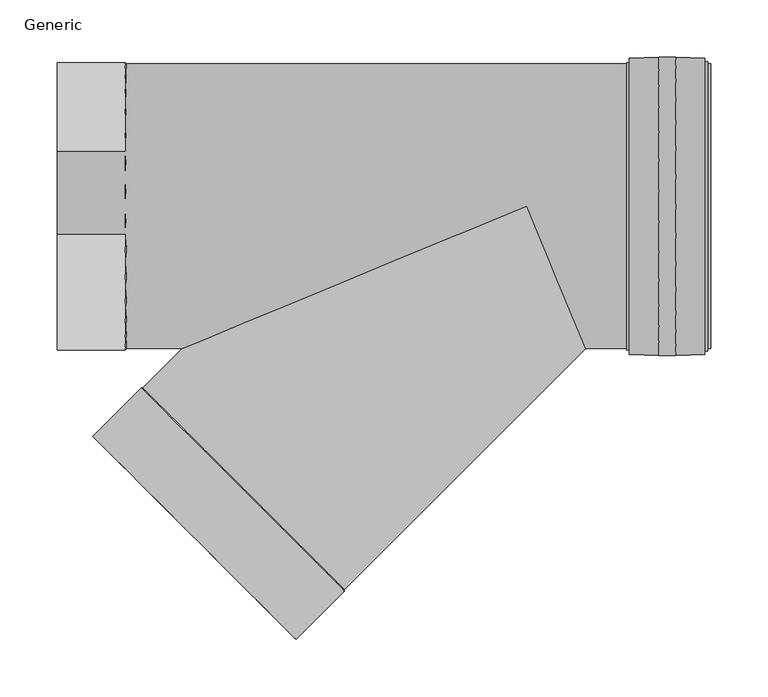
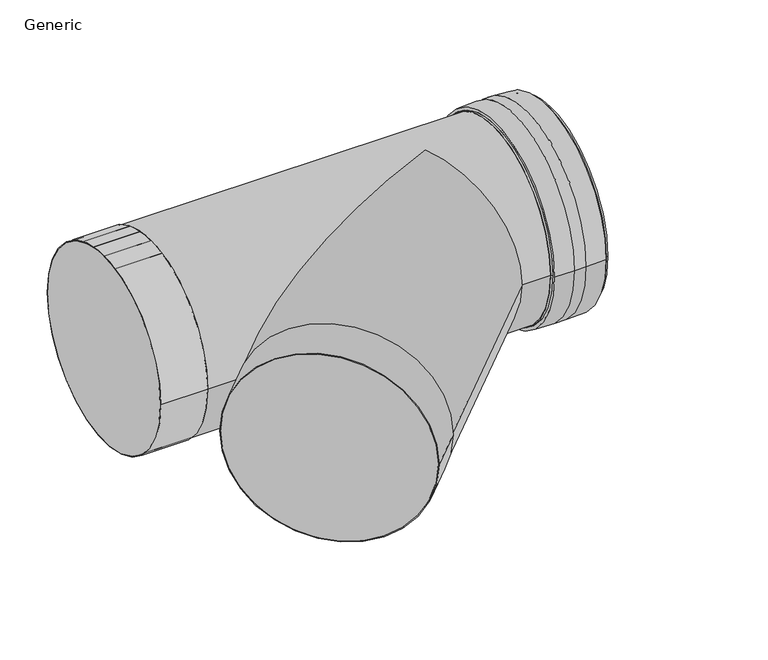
"""IFC4 building model written with IfcOpenShell, lengths in millimetres: pipe fitting geometry, CADS_Jeremias_Tee1 : Generic."""

from ifc_helpers import new_model, si_unit, point, frame, origin, place, context, project, spatial, polyline, circle_curve, ellipse_curve, trimmed, source, transform, mapped, element, save
from ifc_brep_helpers import plane_surface, cylinder_surface, revolved_surface, advanced_brep


def generic_217080a0(model_context):
    return source(origin(), model_context, "Body", "AdvancedBrep", [
        advanced_brep(
        [(158.740931, -125.0, 0.0), (158.740931, 125.0, 0.0), (87.7766953, 125.0, 0.0), (87.7766953, -125.0, 0.0), (156.240931, -127.0, 0.0), (156.240931, 127.0, 0.0), (158.740931, 127.0, 0.0), (158.740931, -127.0, 0.0), (87.7766953, -126.0062895, 0.0), (87.7766953, 126.0062895, 0.0), (90.2766953, 126.0062895, 0.0), (90.2766953, -126.0062895, 0.0), (156.240931, 130.0, 0.0), (156.240931, -130.0, 0.0), (90.2766953, -130.0, 0.0), (90.2766953, 130.0, 0.0), (130.7588132, -130.9818268, 0.0), (130.7588132, 130.9818268, 0.0), (115.7588132, -130.9818268, 0.0), (115.7588132, 130.9818268, 0.0)],
        [
            (0, 1, circle_curve(frame((158.740931, 0.0, 0.0), z_axis=(1.0, 0.0, 0.0), x_axis=(0.0, 1.0, 0.0)), 125.0)),
            (1, 2),
            (2, 3, circle_curve(frame((87.7766953, 0.0, 0.0), z_axis=(-1.0, 0.0, 0.0), x_axis=(0.0, 1.0, 0.0)), 125.0)),
            (3, 0),
            (4, 5, circle_curve(frame((156.240931, 0.0, 0.0), z_axis=(1.0, 0.0, 0.0), x_axis=(0.0, 1.0, 0.0)), 127.0)),
            (5, 6),
            (6, 7, circle_curve(frame((158.740931, 0.0, 0.0), z_axis=(-1.0, 0.0, 0.0), x_axis=(0.0, 1.0, 0.0)), 127.0)),
            (7, 4),
            (8, 9, circle_curve(frame((87.7766953, 0.0, 0.0), z_axis=(1.0, 0.0, 0.0), x_axis=(0.0, 1.0, 0.0)), 126.0062895)),
            (9, 10),
            (10, 11, circle_curve(frame((90.2766953, 0.0, 0.0), z_axis=(-1.0, 0.0, 0.0), x_axis=(0.0, 1.0, 0.0)), 126.0062895)),
            (11, 8),
            (8, 9, circle_curve(frame((87.7766953, 0.0, 0.0), z_axis=(-1.0, 0.0, 0.0), x_axis=(0.0, -1.0, 0.0)), 126.0062895)),
            (2, 3, circle_curve(frame((87.7766953, 0.0, 0.0), z_axis=(1.0, 0.0, 0.0), x_axis=(0.0, -1.0, 0.0)), 125.0)),
            (1, 0, circle_curve(frame((158.740931, 0.0, 0.0), z_axis=(1.0, 0.0, 0.0), x_axis=(0.0, -1.0, 0.0)), 125.0)),
            (6, 7, circle_curve(frame((158.740931, 0.0, 0.0), z_axis=(1.0, 0.0, 0.0), x_axis=(0.0, -1.0, 0.0)), 127.0)),
            (5, 4, circle_curve(frame((156.240931, 0.0, 0.0), z_axis=(1.0, 0.0, 0.0), x_axis=(0.0, -1.0, 0.0)), 127.0)),
            (12, 13, circle_curve(frame((156.240931, 0.0, 0.0), z_axis=(1.0, 0.0, 0.0), x_axis=(0.0, -1.0, 0.0)), 130.0)),
            (13, 12, circle_curve(frame((156.240931, 0.0, 0.0), z_axis=(1.0, 0.0, 0.0), x_axis=(0.0, 1.0, 0.0)), 130.0)),
            (14, 15, circle_curve(frame((90.2766953, 0.0, 0.0), z_axis=(-1.0, 0.0, 0.0), x_axis=(0.0, -1.0, 0.0)), 130.0)),
            (15, 14, circle_curve(frame((90.2766953, 0.0, 0.0), z_axis=(-1.0, 0.0, 0.0), x_axis=(0.0, 1.0, 0.0)), 130.0)),
            (10, 11, circle_curve(frame((90.2766953, 0.0, 0.0), z_axis=(1.0, 0.0, 0.0), x_axis=(0.0, -1.0, 0.0)), 126.0062895)),
            (16, 17, circle_curve(frame((130.7588132, 0.0, 0.0), z_axis=(1.0, 0.0, 0.0), x_axis=(0.0, 1.0, 0.0)), 130.9818268)),
            (17, 12, circle_curve(frame((130.7588132, -200.1877444, 0.0), z_axis=(0.0, 0.0, -1.0), x_axis=(0.0, -1.0, 0.0)), 331.1695712)),
            (13, 16, circle_curve(frame((130.7588132, 200.1877444, 0.0), z_axis=(0.0, 0.0, -1.0), x_axis=(0.0, 1.0, 0.0)), 331.1695712)),
            (18, 19, circle_curve(frame((115.7588132, 0.0, 0.0), z_axis=(1.0, 0.0, 0.0), x_axis=(0.0, 1.0, 0.0)), 130.9818268)),
            (19, 17),
            (16, 18),
            (15, 19, circle_curve(frame((115.7588132, -200.1877444, 0.0), z_axis=(0.0, 0.0, -1.0), x_axis=(0.0, -1.0, 0.0)), 331.1695712)),
            (18, 14, circle_curve(frame((115.7588132, 200.1877444, 0.0), z_axis=(0.0, 0.0, -1.0), x_axis=(0.0, 1.0, 0.0)), 331.1695712)),
            (17, 16, circle_curve(frame((130.7588132, 0.0, 0.0), z_axis=(1.0, 0.0, 0.0), x_axis=(0.0, -1.0, 0.0)), 130.9818268)),
            (19, 18, circle_curve(frame((115.7588132, 0.0, 0.0), z_axis=(1.0, 0.0, 0.0), x_axis=(0.0, -1.0, 0.0)), 130.9818268)),
        ],
        [
            revolved_surface(polyline([(87.7766953, 125.0, 0.0), (158.740931, 125.0, 0.0)]), (101.7766953, 0.0, 0.0), (-1.0, 0.0, 0.0)),
            cylinder_surface(frame((101.7766953, 0.0, 0.0), z_axis=(-1.0, 0.0, 0.0), x_axis=(0.0, 1.0, 0.0)), 127.0),
            cylinder_surface(frame((101.7766953, 0.0, 0.0), z_axis=(-1.0, 0.0, 0.0), x_axis=(0.0, 1.0, 0.0)), 126.0062895),
            plane_surface(frame((87.7766953, 0.0, 0.0), z_axis=(-1.0, 0.0, 0.0), x_axis=(0.0, -1.0, 0.0))),
            revolved_surface(polyline([(87.7766953, -125.0, 0.0), (158.740931, -125.0, 0.0)]), (101.7766953, 0.0, 0.0), (-1.0, 0.0, 0.0)),
            plane_surface(frame((158.740931, 0.0, 0.0), z_axis=(1.0, 0.0, 0.0), x_axis=(0.0, -1.0, 0.0))),
            cylinder_surface(frame((101.7766953, 0.0, 0.0), z_axis=(-1.0, 0.0, 0.0), x_axis=(0.0, -1.0, 0.0)), 127.0),
            plane_surface(frame((156.240931, 0.0, 0.0), z_axis=(1.0, 0.0, 0.0), x_axis=(0.0, -1.0, 0.0))),
            plane_surface(frame((90.2766953, 0.0, 0.0), z_axis=(-1.0, 0.0, 0.0), x_axis=(0.0, -1.0, 0.0))),
            cylinder_surface(frame((101.7766953, 0.0, 0.0), z_axis=(-1.0, 0.0, 0.0), x_axis=(0.0, -1.0, 0.0)), 126.0062895),
            revolved_surface(trimmed(ellipse_curve(frame((130.7588132, -200.1877444, 0.0), z_axis=(0.0, 0.0, 1.0), x_axis=(0.0, -1.0, 0.0)), 331.1695712, 331.1695712), [point((156.240931, 130.0, 0.0))], [point((130.7588132, 130.9818268, 0.0))], True, "CARTESIAN"), (101.7766953, 0.0, 0.0), (-1.0, 0.0, 0.0)),
            cylinder_surface(frame((101.7766953, 0.0, 0.0), z_axis=(-1.0, 0.0, 0.0), x_axis=(0.0, 1.0, 0.0)), 130.9818268),
            revolved_surface(trimmed(ellipse_curve(frame((115.7588132, -200.1877444, 0.0), z_axis=(0.0, 0.0, 1.0), x_axis=(0.0, -1.0, 0.0)), 331.1695712, 331.1695712), [point((115.7588132, 130.9818268, 0.0))], [point((90.2766953, 130.0, 0.0))], True, "CARTESIAN"), (101.7766953, 0.0, 0.0), (-1.0, 0.0, 0.0)),
            revolved_surface(trimmed(ellipse_curve(frame((130.7588132, 200.1877444, 0.0), z_axis=(0.0, 0.0, -1.0), x_axis=(0.0, 1.0, 0.0)), 331.1695712, 331.1695712), [point((156.240931, -130.0, 0.0))], [point((130.7588132, -130.9818268, 0.0))], True, "CARTESIAN"), (101.7766953, 0.0, 0.0), (-1.0, 0.0, 0.0)),
            cylinder_surface(frame((101.7766953, 0.0, 0.0), z_axis=(-1.0, 0.0, 0.0), x_axis=(0.0, -1.0, 0.0)), 130.9818268),
            revolved_surface(trimmed(ellipse_curve(frame((115.7588132, 200.1877444, 0.0), z_axis=(0.0, 0.0, -1.0), x_axis=(0.0, 1.0, 0.0)), 331.1695712, 331.1695712), [point((115.7588132, -130.9818268, 0.0))], [point((90.2766953, -130.0, 0.0))], True, "CARTESIAN"), (101.7766953, 0.0, 0.0), (-1.0, 0.0, 0.0)),
        ],
        [
            (0, [[1, 2, 3, 4]]),
            (1, [[5, 6, 7, 8]]),
            (2, [[9, 10, 11, 12]]),
            (3, [[13, -9], [14, -3]]),
            (4, [[15, -4, -14, -2]]),
            (5, [[16, -7], [-15, -1]]),
            (6, [[17, -8, -16, -6]]),
            (7, [[18, 19], [-17, -5]]),
            (8, [[20, 21], [22, -11]]),
            (9, [[-13, -12, -22, -10]]),
            (10, [[23, 24, -19, 25]]),
            (11, [[26, 27, -23, 28]]),
            (12, [[-21, 29, -26, 30]]),
            (13, [[31, -25, -18, -24]]),
            (14, [[32, -28, -31, -27]]),
            (15, [[-20, -30, -32, -29]]),
        ],
    ),
        advanced_brep(
        [(-337.8391411, -159.6482323, 0.0), (-159.6482323, -337.8391411, 0.0), (-202.0746391, -380.265548, 0.0), (-380.265548, -202.0746391, 0.0), (-336.4249276, -159.6482323, 0.0), (-159.6482323, -336.4249276, 0.0), (-379.5584412, -202.7817459, 0.0), (-202.7817459, -379.5584412, 0.0)],
        [
            (0, 1, circle_curve(frame((-248.7436867, -248.7436867, 0.0), z_axis=(-0.7071067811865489, -0.7071067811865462, 0.0), x_axis=(0.7071067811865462, -0.7071067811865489, 0.0)), 126.0)),
            (1, 2),
            (2, 3, circle_curve(frame((-291.1700936, -291.1700936, 0.0), z_axis=(0.7071067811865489, 0.7071067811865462, 0.0), x_axis=(0.7071067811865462, -0.7071067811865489, 0.0)), 126.0)),
            (3, 0),
            (4, 5, circle_curve(frame((-248.0365799, -248.0365799, 0.0), z_axis=(-0.7071067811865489, -0.7071067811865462, 0.0), x_axis=(0.7071067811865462, -0.7071067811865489, 0.0)), 125.0)),
            (5, 1),
            (0, 4),
            (6, 7, circle_curve(frame((-291.1700936, -291.1700936, 0.0), z_axis=(-0.7071067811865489, -0.7071067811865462, 0.0), x_axis=(0.7071067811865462, -0.7071067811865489, 0.0)), 125.0)),
            (7, 5),
            (4, 6),
            (2, 3, circle_curve(frame((-291.1700936, -291.1700936, 0.0), z_axis=(-0.7071067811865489, -0.7071067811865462, 0.0), x_axis=(-0.7071067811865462, 0.7071067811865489, 0.0)), 126.0)),
            (6, 7, circle_curve(frame((-291.1700936, -291.1700936, 0.0), z_axis=(0.7071067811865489, 0.7071067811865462, 0.0), x_axis=(-0.7071067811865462, 0.7071067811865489, 0.0)), 125.0)),
            (1, 0, circle_curve(frame((-248.7436867, -248.7436867, 0.0), z_axis=(-0.7071067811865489, -0.7071067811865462, 0.0), x_axis=(-0.7071067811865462, 0.7071067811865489, 0.0)), 126.0)),
            (5, 4, circle_curve(frame((-248.0365799, -248.0365799, 0.0), z_axis=(-0.7071067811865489, -0.7071067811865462, 0.0), x_axis=(-0.7071067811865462, 0.7071067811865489, 0.0)), 125.0)),
        ],
        [
            cylinder_surface(frame((-291.1700936, -291.1700936, 0.0), z_axis=(0.7071067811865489, 0.7071067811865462, 0.0), x_axis=(0.7071067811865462, -0.7071067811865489, 0.0)), 126.0),
            revolved_surface(polyline([(-159.6482323, -337.8391411, 0.0), (-159.6482323, -336.4249276, 0.0)]), (-291.1700936, -291.1700936, 0.0), (0.7071067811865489, 0.7071067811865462, 0.0)),
            revolved_surface(polyline([(-159.64823225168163, -336.42492754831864, 0.0), (-202.7817459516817, -379.55844124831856, 0.0)]), (-291.1700936, -291.1700936, 0.0), (0.7071067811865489, 0.7071067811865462, 0.0)),
            plane_surface(frame((-291.1700936, -291.1700936, 0.0), z_axis=(-0.7071067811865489, -0.7071067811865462, 0.0), x_axis=(-0.7071067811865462, 0.7071067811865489, 0.0))),
            cylinder_surface(frame((-291.1700936, -291.1700936, 0.0), z_axis=(0.7071067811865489, 0.7071067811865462, 0.0), x_axis=(-0.7071067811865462, 0.7071067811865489, 0.0)), 126.0),
            revolved_surface(polyline([(-337.8391411, -159.6482323, 0.0), (-336.4249276, -159.6482323, 0.0)]), (-291.1700936, -291.1700936, 0.0), (0.7071067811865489, 0.7071067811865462, 0.0)),
            revolved_surface(polyline([(-336.4249275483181, -159.64823225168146, 0.0), (-379.5584412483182, -202.78174595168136, 0.0)]), (-291.1700936, -291.1700936, 0.0), (0.7071067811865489, 0.7071067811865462, 0.0)),
        ],
        [
            (0, [[1, 2, 3, 4]]),
            (1, [[5, 6, -1, 7]]),
            (2, [[8, 9, -5, 10]]),
            (3, [[11, -3], [12, -8]]),
            (4, [[13, -4, -11, -2]]),
            (5, [[14, -7, -13, -6]]),
            (6, [[-12, -10, -14, -9]]),
        ],
    ),
        advanced_brep(
        [(-379.5584412, -202.7817459, 0.0), (-202.7817459, -379.5584412, 0.0), (51.7766953, -125.0, 0.0), (0.0, 0.0, 125.0), (-301.7766953, -125.0, 0.0), (0.0, 0.0, -125.0), (-411.7766953, -125.0, 0.0), (-411.7766953, 125.0, 0.0), (161.7766953, -125.0, 0.0), (161.7766953, 125.0, 0.0)],
        [
            (0, 1, circle_curve(frame((-291.1700936, -291.1700936, 0.0), z_axis=(-0.7071067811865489, -0.7071067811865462, 0.0), x_axis=(0.7071067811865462, -0.7071067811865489, 0.0)), 125.0)),
            (1, 0, circle_curve(frame((-291.1700936, -291.1700936, 0.0), z_axis=(-0.7071067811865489, -0.7071067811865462, 0.0), x_axis=(0.7071067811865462, -0.7071067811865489, 0.0)), 125.0)),
            (1, 2),
            (2, 3, ellipse_curve(frame((0.0, 0.0, 0.0), z_axis=(-0.9238795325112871, -0.38268343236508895, 0.0), x_axis=(-0.3826834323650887, 0.9238795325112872, 0.0)), 135.299025, 125.0)),
            (3, 4, ellipse_curve(frame((0.0, 0.0, 0.0), z_axis=(0.38268343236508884, -0.9238795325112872, 0.0), x_axis=(0.9238795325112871, 0.38268343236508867, 0.0)), 326.6407412, 125.0)),
            (4, 0),
            (4, 5, ellipse_curve(frame((0.0, 0.0, 0.0), z_axis=(0.38268343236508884, -0.9238795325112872, 0.0), x_axis=(0.9238795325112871, 0.38268343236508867, 0.0)), 326.6407412, 125.0)),
            (5, 2, ellipse_curve(frame((0.0, 0.0, 0.0), z_axis=(-0.9238795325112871, -0.38268343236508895, 0.0), x_axis=(-0.3826834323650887, 0.9238795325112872, 0.0)), 135.299025, 125.0)),
            (6, 7, circle_curve(frame((-411.7766953, 0.0, 0.0), z_axis=(-1.0, 0.0, 0.0), x_axis=(0.0, 1.0, 0.0)), 125.0)),
            (7, 6, circle_curve(frame((-411.7766953, 0.0, 0.0), z_axis=(-1.0, 0.0, 0.0), x_axis=(0.0, 1.0, 0.0)), 125.0)),
            (8, 9, circle_curve(frame((161.7766953, 0.0, 0.0), z_axis=(1.0, 0.0, 0.0), x_axis=(0.0, 1.0, 0.0)), 125.0)),
            (9, 8, circle_curve(frame((161.7766953, 0.0, 0.0), z_axis=(1.0, 0.0, 0.0), x_axis=(0.0, 1.0, 0.0)), 125.0)),
            (6, 4),
            (2, 8),
            (9, 7),
        ],
        [
            plane_surface(frame((-291.1700936, -291.1700936, 0.0), z_axis=(-0.7071067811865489, -0.7071067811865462, 0.0), x_axis=(0.0, 0.0, 1.0))),
            cylinder_surface(frame((0.0, 0.0, 0.0), z_axis=(0.7071067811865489, 0.7071067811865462, 0.0), x_axis=(0.7071067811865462, -0.7071067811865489, 0.0)), 125.0),
            plane_surface(frame((-411.7766953, 0.0, 0.0), z_axis=(-1.0, 0.0, 0.0), x_axis=(0.0, 0.0, 1.0))),
            plane_surface(frame((161.7766953, 0.0, 0.0), z_axis=(1.0, 0.0, 0.0), x_axis=(0.0, 0.0, 1.0))),
            cylinder_surface(frame((-411.7766953, 0.0, 0.0), z_axis=(-1.0, 0.0, 0.0), x_axis=(0.0, 1.0, 0.0)), 125.0),
        ],
        [
            (0, [[1, 2]]),
            (1, [[-2, 3, 4, 5, 6]]),
            (1, [[-1, -6, 7, 8, -3]]),
            (2, [[9, 10]]),
            (3, [[11, 12]]),
            (4, [[-9, 13, -5, -4, 14, -12, 15]]),
            (4, [[-10, -15, -11, -14, -8, -7, -13]]),
        ],
    ),
        advanced_brep(
        [(-351.7766953, 126.0, 0.0), (-351.7766953, -126.0, 0.0), (-411.7766953, -126.0, 0.0), (-411.7766953, 126.0, 0.0), (-350.7766953, 125.0, 0.0), (-350.7766953, -125.0, 0.0), (-411.7766953, 125.0, 0.0), (-411.7766953, -125.0, 0.0)],
        [
            (0, 1, circle_curve(frame((-351.7766953, 0.0, 0.0), z_axis=(-1.0, 0.0, 0.0), x_axis=(0.0, -1.0, 0.0)), 126.0)),
            (1, 2),
            (2, 3, circle_curve(frame((-411.7766953, 0.0, 0.0), z_axis=(1.0, 0.0, 0.0), x_axis=(0.0, -1.0, 0.0)), 126.0)),
            (3, 0),
            (4, 5, circle_curve(frame((-350.7766953, 0.0, 0.0), z_axis=(-1.0, 0.0, 0.0), x_axis=(0.0, -1.0, 0.0)), 125.0)),
            (5, 1),
            (0, 4),
            (6, 7, circle_curve(frame((-411.7766953, 0.0, 0.0), z_axis=(-1.0, 0.0, 0.0), x_axis=(0.0, -1.0, 0.0)), 125.0)),
            (7, 5),
            (4, 6),
            (2, 3, circle_curve(frame((-411.7766953, 0.0, 0.0), z_axis=(-1.0, 0.0, 0.0), x_axis=(0.0, 1.0, 0.0)), 126.0)),
            (6, 7, circle_curve(frame((-411.7766953, 0.0, 0.0), z_axis=(1.0, 0.0, 0.0), x_axis=(0.0, 1.0, 0.0)), 125.0)),
            (1, 0, circle_curve(frame((-351.7766953, 0.0, 0.0), z_axis=(-1.0, 0.0, 0.0), x_axis=(0.0, 1.0, 0.0)), 126.0)),
            (5, 4, circle_curve(frame((-350.7766953, 0.0, 0.0), z_axis=(-1.0, 0.0, 0.0), x_axis=(0.0, 1.0, 0.0)), 125.0)),
        ],
        [
            cylinder_surface(frame((-411.7766953, 0.0, 0.0), z_axis=(1.0, 0.0, 0.0), x_axis=(0.0, -1.0, 0.0)), 126.0),
            revolved_surface(polyline([(-351.7766953, -126.0, 0.0), (-350.7766953, -125.0, 0.0)]), (-411.7766953, 0.0, 0.0), (1.0, 0.0, 0.0)),
            revolved_surface(polyline([(-350.7766953, -125.0, 0.0), (-411.7766953, -125.0, 0.0)]), (-411.7766953, 0.0, 0.0), (1.0, 0.0, 0.0)),
            plane_surface(frame((-411.7766953, 0.0, 0.0), z_axis=(-1.0, 0.0, 0.0), x_axis=(0.0, 1.0, 0.0))),
            cylinder_surface(frame((-411.7766953, 0.0, 0.0), z_axis=(1.0, 0.0, 0.0), x_axis=(0.0, 1.0, 0.0)), 126.0),
            revolved_surface(polyline([(-351.7766953, 126.0, 0.0), (-350.7766953, 125.0, 0.0)]), (-411.7766953, 0.0, 0.0), (1.0, 0.0, 0.0)),
            revolved_surface(polyline([(-350.7766953, 125.0, 0.0), (-411.7766953, 125.0, 0.0)]), (-411.7766953, 0.0, 0.0), (1.0, 0.0, 0.0)),
        ],
        [
            (0, [[1, 2, 3, 4]]),
            (1, [[5, 6, -1, 7]]),
            (2, [[8, 9, -5, 10]]),
            (3, [[11, -3], [12, -8]]),
            (4, [[13, -4, -11, -2]]),
            (5, [[14, -7, -13, -6]]),
            (6, [[-12, -10, -14, -9]]),
        ],
    ),
    ])


if __name__ == "__main__":
    model = new_model("IFC4")
    model_context = context("Model", 3, world=origin())
    ifc_project = project(units=[si_unit("LENGTHUNIT", "METRE", prefix="MILLI")], contexts=[model_context])
    site = spatial("IfcSite", under=ifc_project)
    building = spatial("IfcBuilding", under=site)
    placement = place(None, origin())
    generic_shape = generic_217080a0(model_context)
    element("IfcPipeFitting", 1, ObjectType="CADS_Jeremias_Tee1 : Generic", at=placement, inside=building, context=model_context, shape_type="MappedRepresentation", body=[
        mapped(generic_shape, transform((0.0, 0.0, 0.0), x_axis=(1.0, 0.0, 0.0), y_axis=(0.0, 1.0, 0.0), z_axis=(0.0, 0.0, 1.0))),
    ])
    save(model, "model.ifc")
